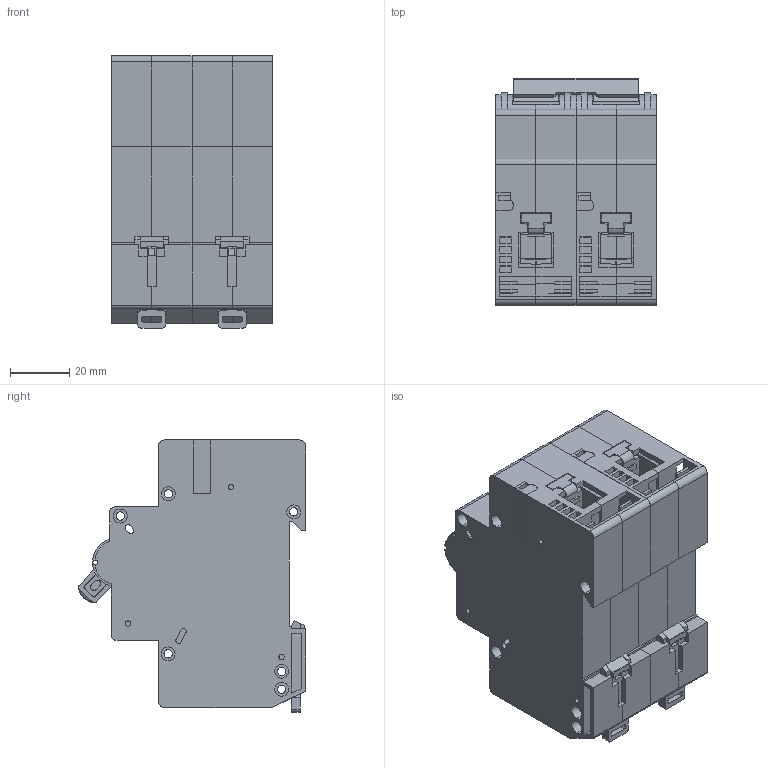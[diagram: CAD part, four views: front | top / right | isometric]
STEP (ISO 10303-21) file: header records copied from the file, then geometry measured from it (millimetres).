
FILE_DESCRIPTION (( 'STEP AP214' ), '1' );
FILE_NAME ('OptiDin BM125 2 瀁錌黟.STEP', '2022-12-01T08:56:45', ( '' ), ( '' ), 'SwSTEP 2.0', 'SolidWorks 2018', '' );
FILE_SCHEMA (( 'AUTOMOTIVE_DESIGN' ));
Length unit declared in the file: millimetre
Products named in the file (12): 妈眚 闷仁.758151.075; Áîêîâèíà ëåâàÿ ÃÆÈÊ.735224.141(ïóñòàÿ); Êîëîäêà ÃÆÈÊ.745418.023; OptiDin BM125 1 ïîëþñ_1•; Âñòàâêà ÃÆÈÊ.741324.037; Ðó÷êà ÃÆÈÊ.753725.017; OptiDin BM125 2 瀁錌黟; Áîêîâèíà ïðàâàÿ ÃÆÈÊ.735224.142 ïóñòàÿ; Çàù¸ëêà ÃÆÈÊ.741358.040; Âûâîä âåðõíèé ÃÆÈÊ.745315.019; Âûâîä íèæíèé ÃÆÈÊ.745315.018 îáðåçàíûé; Ñêîáà ÃÆÈÊ.746442.007_2-å
Assembly tree (14 placements, depth 3):
  OptiDin BM125 2 瀁錌黟
    OptiDin BM125 1 ïîëþñ_1•  x2
      Áîêîâèíà ëåâàÿ ÃÆÈÊ.735224.141(ïóñòàÿ)
      Áîêîâèíà ïðàâàÿ ÃÆÈÊ.735224.142 ïóñòàÿ
      Âñòàâêà ÃÆÈÊ.741324.037
      Âûâîä íèæíèé ÃÆÈÊ.745315.018 îáðåçàíûé
      Âûâîä âåðõíèé ÃÆÈÊ.745315.019
      妈眚 闷仁.758151.075
      Êîëîäêà ÃÆÈÊ.745418.023
      Ðó÷êà ÃÆÈÊ.753725.017
      Çàù¸ëêà ÃÆÈÊ.741358.040
    Ñêîáà ÃÆÈÊ.746442.007_2-å
Bounding box: 54 x 76.52 x 91.57 mm (x, y, z)
Volume: 92120.4 mm3; surface area: 108107.9 mm2
Topology: 23 solids, 23 shells, 2164 faces, 5839 edges, 3766 vertices
Faces by surface type: plane 1591, cylinder 543, torus 16, cone 14
Entity records: 32491 total; most frequent: CARTESIAN_POINT 5859, ORIENTED_EDGE 5548, DIRECTION 5337, EDGE_CURVE 2774, VECTOR 2121, LINE 2121, VERTEX_POINT 1802, AXIS2_PLACEMENT_3D 1608
